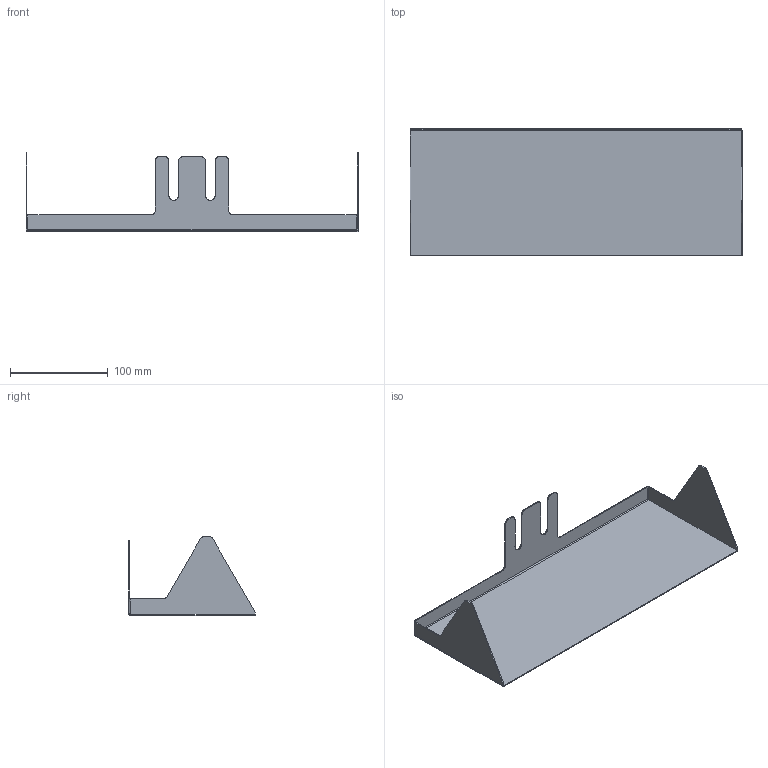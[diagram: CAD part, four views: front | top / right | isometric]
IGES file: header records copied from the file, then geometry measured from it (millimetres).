
Start section: SolidWorks IGES file using analytic representation for surfaces
Global section: file name: C:\Users\User2\Desktop\Lego IGS\Àíòèîñëåïëÿþùèé ýêðàí Lego 8x2.IGS; native system: SolidWorks 2024; preprocessor: SolidWorks 2024; author: User2; date: 251022.124751; units: millimetre
Bounding box: 340 x 130 x 81 mm (x, y, z)
Surface area: 127877 mm2 (no closed solid volume)
Topology: 0 solids, 0 shells, 63 faces, 602 edges, 602 vertices
Faces by surface type: bspline 41, revolution 22
